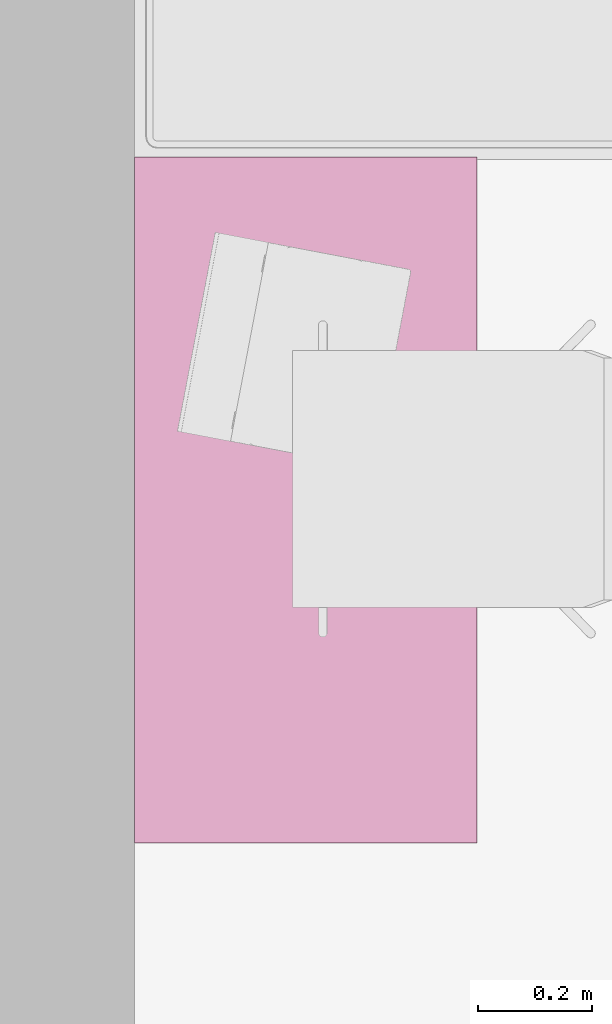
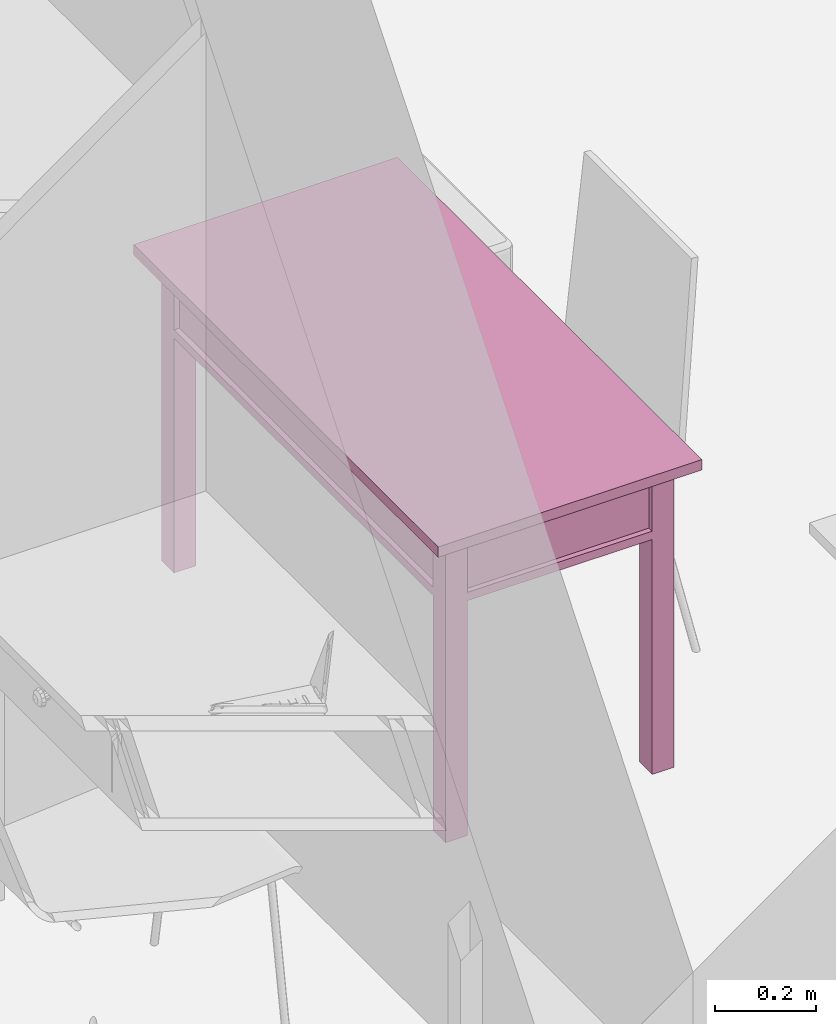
# One storey, part 122 of 165: 1 furnishing.
"""IFC2X3 building model written with IfcOpenShell, lengths in millimetres."""

from ifc_helpers import new_model, entity, si_unit, converted_unit, money_unit, direction, frame, origin_with_axes, place, context, subcontext, project, spatial, faceted_brep, source, transform, mapped, material, material_list, type_object, element, save


model = new_model("IFC2X3")

# Units and contexts
model_context = context("Model", 3, precision=1e-05, world=origin_with_axes(), true_north=direction((0.0, 1.0)))
body_context = subcontext(model_context, "Body", "Model", "MODEL_VIEW")
ifc_project = project(units=[si_unit("LENGTHUNIT", "METRE", prefix="MILLI"), si_unit("AREAUNIT", "SQUARE_METRE"), si_unit("VOLUMEUNIT", "CUBIC_METRE"), converted_unit("PLANEANGLEUNIT", "DEGREE", entity("IfcPlaneAngleMeasure", 0.0174532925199), si_unit("PLANEANGLEUNIT", "RADIAN"), dimensions=[0, 0, 0, 0, 0, 0, 0]), si_unit("SOLIDANGLEUNIT", "STERADIAN"), money_unit("USD"), converted_unit("TIMEUNIT", "Year", entity("IfcTimeMeasure", 31556926.0), si_unit("TIMEUNIT", "SECOND"), dimensions=[0, 0, 0, 0, 0, 0, 0]), si_unit("MASSUNIT", "GRAM"), si_unit("THERMODYNAMICTEMPERATUREUNIT", "DEGREE_CELSIUS"), si_unit("LUMINOUSINTENSITYUNIT", "LUMEN")], contexts=[model_context])

# Site, building, storey
site_placement = place(None, origin_with_axes())
site = spatial("IfcSite", under=ifc_project, at=site_placement, Name="Site", CompositionType="ELEMENT")
building_placement = place(site_placement, origin_with_axes())
building = spatial("IfcBuilding", under=site, at=building_placement, Name="Building", CompositionType="ELEMENT")
storey_placement = place(building_placement, frame((0.0, 0.0, 6300.0), z_axis=(0.0, 0.0, 1.0), x_axis=(1.0, 0.0, 0.0)))
storey = spatial("IfcBuildingStorey", under=building, at=storey_placement, Name="4KORRUS", CompositionType="ELEMENT", Elevation=6300.0)

# Furnishing
ifc_material = material(Name="Background")
ifc_material_list = material_list([ifc_material])
furnishing_element_type = type_object("IfcFurnishingElementType", Name="Rectangular Table 01 19")
shared_shape = source(origin_with_axes(), body_context, "Body", "Brep", [
    faceted_brep([(-90.0, 40.0, 0.0), (-90.0, 90.0, 0.0), (-40.0, 90.0, 0.0), (-40.0, 40.0, 0.0), (-90.0, 40.0, 725.0), (-90.0, 90.0, 725.0), (-40.0, 90.0, 725.0), (-40.0, 40.0, 725.0)], [[[0, 1, 2, 3]], [[0, 4, 5, 1]], [[1, 5, 6, 2]], [[2, 6, 7, 3]], [[3, 7, 4, 0]], [[7, 6, 5, 4]]]),
    faceted_brep([(-1160.0, 40.0, 0.0), (-1160.0, 90.0, 0.0), (-1110.0, 90.0, 0.0), (-1110.0, 40.0, 0.0), (-1160.0, 40.0, 725.0), (-1160.0, 90.0, 725.0), (-1110.0, 90.0, 725.0), (-1110.0, 40.0, 725.0)], [[[0, 1, 2, 3]], [[0, 4, 5, 1]], [[1, 5, 6, 2]], [[2, 6, 7, 3]], [[3, 7, 4, 0]], [[7, 6, 5, 4]]]),
    faceted_brep([(-90.0, 510.0, 0.0), (-90.0, 560.0, 0.0), (-40.0, 560.0, 0.0), (-40.0, 510.0, 0.0), (-90.0, 510.0, 725.0), (-90.0, 560.0, 725.0), (-40.0, 560.0, 725.0), (-40.0, 510.0, 725.0)], [[[0, 1, 2, 3]], [[0, 4, 5, 1]], [[1, 5, 6, 2]], [[2, 6, 7, 3]], [[3, 7, 4, 0]], [[7, 6, 5, 4]]]),
    faceted_brep([(-1160.0, 510.0, 0.0), (-1160.0, 560.0, 0.0), (-1110.0, 560.0, 0.0), (-1110.0, 510.0, 0.0), (-1160.0, 510.0, 725.0), (-1160.0, 560.0, 725.0), (-1110.0, 560.0, 725.0), (-1110.0, 510.0, 725.0)], [[[0, 1, 2, 3]], [[0, 4, 5, 1]], [[1, 5, 6, 2]], [[2, 6, 7, 3]], [[3, 7, 4, 0]], [[7, 6, 5, 4]]]),
    faceted_brep([(-1160.0, 40.0, 565.0), (-1160.0, 560.0, 565.0), (-40.0, 560.0, 565.0), (-40.0, 40.0, 565.0), (-1160.0, 40.0, 585.0), (-1160.0, 560.0, 585.0), (-40.0, 560.0, 585.0), (-40.0, 40.0, 585.0)], [[[0, 1, 2, 3]], [[0, 4, 5, 1]], [[1, 5, 6, 2]], [[2, 6, 7, 3]], [[3, 7, 4, 0]], [[7, 6, 5, 4]]]),
    faceted_brep([(-1110.0, 52.5, 585.0), (-1110.0, 77.5, 585.0), (-90.0, 77.5, 585.0), (-90.0, 52.5, 585.0), (-1110.0, 52.5, 745.0), (-1110.0, 77.5, 745.0), (-90.0, 77.5, 745.0), (-90.0, 52.5, 745.0)], [[[0, 1, 2, 3]], [[0, 4, 5, 1]], [[1, 5, 6, 2]], [[2, 6, 7, 3]], [[3, 7, 4, 0]], [[7, 6, 5, 4]]]),
    faceted_brep([(-77.5, 90.0, 585.0), (-77.5, 510.0, 585.0), (-52.5, 510.0, 585.0), (-52.5, 90.0, 585.0), (-77.5, 90.0, 745.0), (-77.5, 510.0, 745.0), (-52.5, 510.0, 745.0), (-52.5, 90.0, 745.0)], [[[0, 1, 2, 3]], [[0, 4, 5, 1]], [[1, 5, 6, 2]], [[2, 6, 7, 3]], [[3, 7, 4, 0]], [[7, 6, 5, 4]]]),
    faceted_brep([(-90.0, 547.5, 585.0), (-90.0, 522.5, 585.0), (-1110.0, 522.5, 585.0), (-1110.0, 547.5, 585.0), (-90.0, 547.5, 745.0), (-90.0, 522.5, 745.0), (-1110.0, 522.5, 745.0), (-1110.0, 547.5, 745.0)], [[[0, 1, 2, 3]], [[0, 4, 5, 1]], [[1, 5, 6, 2]], [[2, 6, 7, 3]], [[3, 7, 4, 0]], [[7, 6, 5, 4]]]),
    faceted_brep([(-1122.5, 510.0, 585.0), (-1122.5, 90.0, 585.0), (-1147.5, 90.0, 585.0), (-1147.5, 510.0, 585.0), (-1122.5, 510.0, 745.0), (-1122.5, 90.0, 745.0), (-1147.5, 90.0, 745.0), (-1147.5, 510.0, 745.0)], [[[0, 1, 2, 3]], [[0, 4, 5, 1]], [[1, 5, 6, 2]], [[2, 6, 7, 3]], [[3, 7, 4, 0]], [[7, 6, 5, 4]]]),
    faceted_brep([(-597.5, 40.0, 585.0), (-597.5, 60.0, 585.0), (-95.0, 60.0, 585.0), (-95.0, 40.0, 585.0), (-597.5, 40.0, 745.0), (-597.5, 60.0, 745.0), (-95.0, 60.0, 745.0), (-95.0, 40.0, 745.0)], [[[0, 1, 2, 3]], [[0, 4, 5, 1]], [[1, 5, 6, 2]], [[2, 6, 7, 3]], [[3, 7, 4, 0]], [[7, 6, 5, 4]]]),
    faceted_brep([(-1105.0, 40.0, 585.0), (-1105.0, 60.0, 585.0), (-602.5, 60.0, 585.0), (-602.5, 40.0, 585.0), (-1105.0, 40.0, 745.0), (-1105.0, 60.0, 745.0), (-602.5, 60.0, 745.0), (-602.5, 40.0, 745.0)], [[[0, 1, 2, 3]], [[0, 4, 5, 1]], [[1, 5, 6, 2]], [[2, 6, 7, 3]], [[3, 7, 4, 0]], [[7, 6, 5, 4]]]),
    faceted_brep([(-354.91, 40.0, 660.0), (-356.25, 40.0, 665.0), (-354.91, 40.0, 670.0), (-351.25, 40.0, 673.66), (-346.25, 40.0, 675.0), (-341.25, 40.0, 673.66), (-337.59, 40.0, 670.0), (-336.25, 40.0, 665.0), (-337.59, 40.0, 660.0), (-341.25, 40.0, 656.34), (-346.25, 40.0, 655.0), (-351.25, 40.0, 656.34), (-354.91, 25.0, 660.0), (-356.25, 25.0, 665.0), (-354.91, 25.0, 670.0), (-351.25, 25.0, 673.66), (-346.25, 25.0, 675.0), (-341.25, 25.0, 673.66), (-337.59, 25.0, 670.0), (-336.25, 25.0, 665.0), (-337.59, 25.0, 660.0), (-341.25, 25.0, 656.34), (-346.25, 25.0, 655.0), (-351.25, 25.0, 656.34)], [[[0, 1, 2, 3, 4, 5, 6, 7, 8, 9, 10, 11]], [[0, 12, 13, 1]], [[1, 13, 14, 2]], [[2, 14, 15, 3]], [[3, 15, 16, 4]], [[4, 16, 17, 5]], [[5, 17, 18, 6]], [[6, 18, 19, 7]], [[7, 19, 20, 8]], [[8, 20, 21, 9]], [[9, 21, 22, 10]], [[10, 22, 23, 11]], [[11, 23, 12, 0]], [[12, 23, 22, 21, 20, 19, 18, 17, 16, 15, 14, 13]]]),
    faceted_brep([(-356.25, 12.01, 665.0), (-354.91, 12.01, 660.0), (-346.25, 10.0, 665.0), (-363.571, 17.5, 665.0), (-361.25, 17.5, 656.34), (-351.25, 12.01, 656.34), (-354.91, 12.01, 670.0), (-366.25, 25.0, 665.0), (-363.571, 25.0, 655.0), (-354.91, 17.5, 650.0), (-361.25, 17.5, 673.66), (-346.25, 12.01, 655.0), (-351.25, 12.01, 673.66), (-363.571, 25.0, 675.0), (-356.25, 25.0, 682.321), (-346.25, 25.0, 685.0), (-336.25, 25.0, 682.321), (-328.929, 25.0, 675.0), (-326.25, 25.0, 665.0), (-328.929, 25.0, 655.0), (-336.25, 25.0, 647.679), (-346.25, 25.0, 645.0), (-356.25, 25.0, 647.679), (-346.25, 17.5, 647.679), (-354.91, 17.5, 680.0), (-341.25, 12.01, 656.34), (-346.25, 12.01, 675.0), (-346.25, 17.5, 682.321), (-337.59, 17.5, 680.0), (-331.25, 17.5, 673.66), (-328.929, 17.5, 665.0), (-331.25, 17.5, 656.34), (-337.59, 17.5, 650.0), (-337.59, 12.01, 660.0), (-341.25, 12.01, 673.66), (-337.59, 12.01, 670.0), (-336.25, 12.01, 665.0)], [[[0, 1, 2]], [[3, 4, 1, 0]], [[1, 5, 2]], [[6, 0, 2]], [[7, 8, 4, 3]], [[4, 9, 5, 1]], [[10, 3, 0, 6]], [[5, 11, 2]], [[12, 6, 2]], [[8, 7, 13, 14, 15, 16, 17, 18, 19, 20, 21, 22]], [[8, 22, 9, 4]], [[13, 7, 3, 10]], [[9, 23, 11, 5]], [[24, 10, 6, 12]], [[11, 25, 2]], [[26, 12, 2]], [[14, 13, 10, 24]], [[15, 14, 24, 27]], [[16, 15, 27, 28]], [[17, 16, 28, 29]], [[18, 17, 29, 30]], [[19, 18, 30, 31]], [[20, 19, 31, 32]], [[21, 20, 32, 23]], [[22, 21, 23, 9]], [[23, 32, 25, 11]], [[27, 24, 12, 26]], [[25, 33, 2]], [[34, 26, 2]], [[28, 27, 26, 34]], [[29, 28, 34, 35]], [[30, 29, 35, 36]], [[31, 30, 36, 33]], [[32, 31, 33, 25]], [[33, 36, 2]], [[35, 34, 2]], [[36, 35, 2]]]),
    faceted_brep([(-862.41, 40.0, 660.0), (-863.75, 40.0, 665.0), (-862.41, 40.0, 670.0), (-858.75, 40.0, 673.66), (-853.75, 40.0, 675.0), (-848.75, 40.0, 673.66), (-845.09, 40.0, 670.0), (-843.75, 40.0, 665.0), (-845.09, 40.0, 660.0), (-848.75, 40.0, 656.34), (-853.75, 40.0, 655.0), (-858.75, 40.0, 656.34), (-862.41, 25.0, 660.0), (-863.75, 25.0, 665.0), (-862.41, 25.0, 670.0), (-858.75, 25.0, 673.66), (-853.75, 25.0, 675.0), (-848.75, 25.0, 673.66), (-845.09, 25.0, 670.0), (-843.75, 25.0, 665.0), (-845.09, 25.0, 660.0), (-848.75, 25.0, 656.34), (-853.75, 25.0, 655.0), (-858.75, 25.0, 656.34)], [[[0, 1, 2, 3, 4, 5, 6, 7, 8, 9, 10, 11]], [[0, 12, 13, 1]], [[1, 13, 14, 2]], [[2, 14, 15, 3]], [[3, 15, 16, 4]], [[4, 16, 17, 5]], [[5, 17, 18, 6]], [[6, 18, 19, 7]], [[7, 19, 20, 8]], [[8, 20, 21, 9]], [[9, 21, 22, 10]], [[10, 22, 23, 11]], [[11, 23, 12, 0]], [[12, 23, 22, 21, 20, 19, 18, 17, 16, 15, 14, 13]]]),
    faceted_brep([(-863.75, 12.01, 665.0), (-862.41, 12.01, 660.0), (-853.75, 10.0, 665.0), (-871.071, 17.5, 665.0), (-868.75, 17.5, 656.34), (-858.75, 12.01, 656.34), (-862.41, 12.01, 670.0), (-873.75, 25.0, 665.0), (-871.071, 25.0, 655.0), (-862.41, 17.5, 650.0), (-868.75, 17.5, 673.66), (-853.75, 12.01, 655.0), (-858.75, 12.01, 673.66), (-871.071, 25.0, 675.0), (-863.75, 25.0, 682.321), (-853.75, 25.0, 685.0), (-843.75, 25.0, 682.321), (-836.429, 25.0, 675.0), (-833.75, 25.0, 665.0), (-836.429, 25.0, 655.0), (-843.75, 25.0, 647.679), (-853.75, 25.0, 645.0), (-863.75, 25.0, 647.679), (-853.75, 17.5, 647.679), (-862.41, 17.5, 680.0), (-848.75, 12.01, 656.34), (-853.75, 12.01, 675.0), (-853.75, 17.5, 682.321), (-845.09, 17.5, 680.0), (-838.75, 17.5, 673.66), (-836.429, 17.5, 665.0), (-838.75, 17.5, 656.34), (-845.09, 17.5, 650.0), (-845.09, 12.01, 660.0), (-848.75, 12.01, 673.66), (-845.09, 12.01, 670.0), (-843.75, 12.01, 665.0)], [[[0, 1, 2]], [[3, 4, 1, 0]], [[1, 5, 2]], [[6, 0, 2]], [[7, 8, 4, 3]], [[4, 9, 5, 1]], [[10, 3, 0, 6]], [[5, 11, 2]], [[12, 6, 2]], [[8, 7, 13, 14, 15, 16, 17, 18, 19, 20, 21, 22]], [[8, 22, 9, 4]], [[13, 7, 3, 10]], [[9, 23, 11, 5]], [[24, 10, 6, 12]], [[11, 25, 2]], [[26, 12, 2]], [[14, 13, 10, 24]], [[15, 14, 24, 27]], [[16, 15, 27, 28]], [[17, 16, 28, 29]], [[18, 17, 29, 30]], [[19, 18, 30, 31]], [[20, 19, 31, 32]], [[21, 20, 32, 23]], [[22, 21, 23, 9]], [[23, 32, 25, 11]], [[27, 24, 12, 26]], [[25, 33, 2]], [[34, 26, 2]], [[28, 27, 26, 34]], [[29, 28, 34, 35]], [[30, 29, 35, 36]], [[31, 30, 36, 33]], [[32, 31, 33, 25]], [[33, 36, 2]], [[35, 34, 2]], [[36, 35, 2]]]),
    faceted_brep([(-1200.0, 0.0, 725.0), (-1200.0, 600.0, 725.0), (0.0, 600.0, 725.0), (0.0, 0.0, 725.0), (-1200.0, 0.0, 750.0), (-1200.0, 600.0, 750.0), (0.0, 600.0, 750.0), (0.0, 0.0, 750.0)], [[[0, 1, 2, 3]], [[0, 4, 5, 1]], [[1, 5, 6, 2]], [[2, 6, 7, 3]], [[3, 7, 4, 0]], [[7, 6, 5, 4]]]),
])
furnishing_placement = place(storey_placement, frame((6609.70329669, -17434.8573505, 0.0), z_axis=(0.0, 0.0, 1.0), x_axis=(0.0, 1.0, 0.0)))
element("IfcFurnishingElement", 1, at=furnishing_placement, inside=storey, type_object=furnishing_element_type, material=ifc_material_list, Name="FU - 011", context=body_context, shape_type="MappedRepresentation", body=[
    mapped(shared_shape, transform((0.0, 0.0, 0.0))),
])

save(model, "model.ifc")
